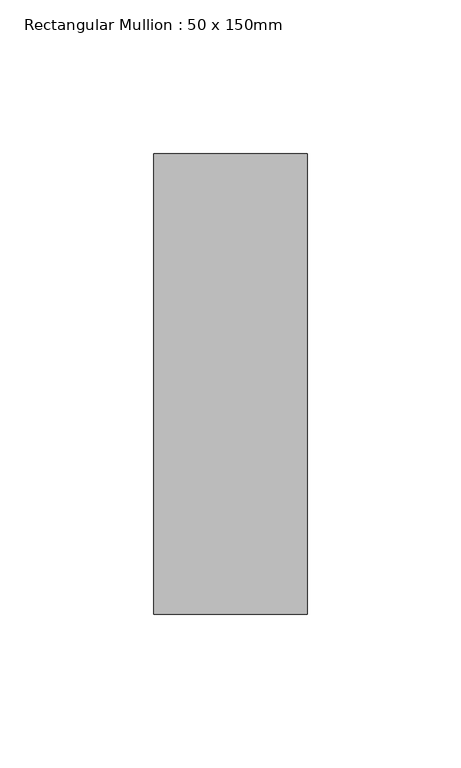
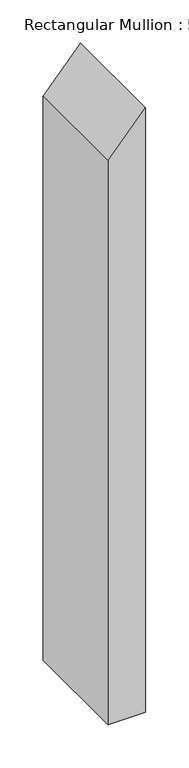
"""IFC4 building model written with IfcOpenShell, lengths in millimetres: member geometry, Rectangular Mullion : 50 x 150mm."""

from ifc_helpers import new_model, si_unit, frame, origin, place, context, project, spatial, polyline, outline, extrude, source, transform, mapped, element, save


def rectangular_mullion_50_x_150mm_9b7371ff(model_context):
    return source(origin(), model_context, "Body", "SweptSolid", [
        extrude(outline(polyline([(-47.3292929, 25.0), (-104.3576144, -25.0), (-899.2598118, -25.0), (-899.2598118, 25.0), (-47.3292929, 25.0)])), frame((0.0, -75.0, 0.0), z_axis=(0.0, 1.0, 0.0), x_axis=(0.0, 0.0, 1.0)), (0.0, 0.0, 1.0), 150.0),
    ])


if __name__ == "__main__":
    model = new_model("IFC4")
    model_context = context("Model", 3, world=origin())
    ifc_project = project(units=[si_unit("LENGTHUNIT", "METRE", prefix="MILLI")], contexts=[model_context])
    site = spatial("IfcSite", under=ifc_project)
    building = spatial("IfcBuilding", under=site)
    placement = place(None, origin())
    rectangular_mullion_50_x_150mm_shape = rectangular_mullion_50_x_150mm_9b7371ff(model_context)
    element("IfcMember", 1, ObjectType="Rectangular Mullion : 50 x 150mm", at=placement, inside=building, context=model_context, shape_type="MappedRepresentation", body=[
        mapped(rectangular_mullion_50_x_150mm_shape, transform((0.0, 0.0, 0.0), x_axis=(1.0, 0.0, 0.0), y_axis=(0.0, 1.0, 0.0), z_axis=(0.0, 0.0, 1.0))),
    ])
    save(model, "model.ifc")
